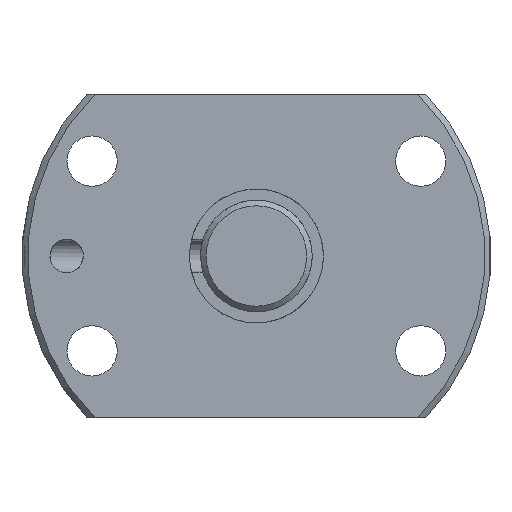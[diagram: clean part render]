
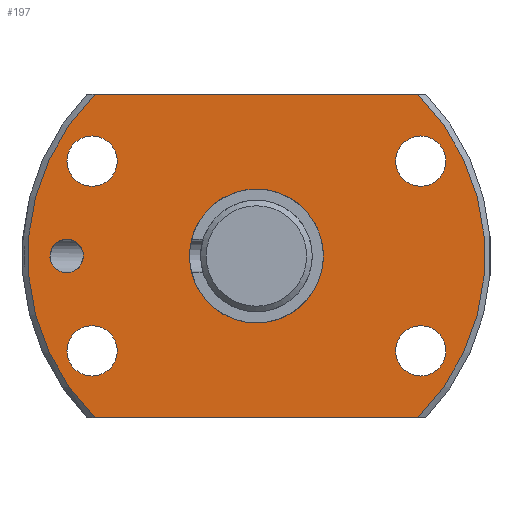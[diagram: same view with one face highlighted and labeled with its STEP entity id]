
A CAD part, left-side view. The second image highlights one B-rep face of the part: STEP entity #197.
In plain terms, the highlighted planar face has unit normal (-1, 0, 0).
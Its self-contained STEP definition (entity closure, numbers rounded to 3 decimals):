
#197 = ADVANCED_FACE( '', ( #288, #289, #290, #291, #292, #293, #294 ), #295, .T. );
#288 = FACE_BOUND( '', #412, .T. );
#289 = FACE_BOUND( '', #413, .T. );
#290 = FACE_OUTER_BOUND( '', #414, .T. );
#291 = FACE_BOUND( '', #415, .T. );
#292 = FACE_BOUND( '', #416, .T. );
#293 = FACE_BOUND( '', #417, .T. );
#294 = FACE_BOUND( '', #418, .T. );
#295 = PLANE( '', #419 );
#412 = EDGE_LOOP( '', ( #621 ) );
#413 = EDGE_LOOP( '', ( #622 ) );
#414 = EDGE_LOOP( '', ( #623, #624, #625, #626 ) );
#415 = EDGE_LOOP( '', ( #627 ) );
#416 = EDGE_LOOP( '', ( #628 ) );
#417 = EDGE_LOOP( '', ( #629 ) );
#418 = EDGE_LOOP( '', ( #630 ) );
#419 = AXIS2_PLACEMENT_3D( '', #631, #632, #633 );
#621 = ORIENTED_EDGE( '', *, *, #769, .T. );
#622 = ORIENTED_EDGE( '', *, *, #762, .T. );
#623 = ORIENTED_EDGE( '', *, *, #770, .F. );
#624 = ORIENTED_EDGE( '', *, *, #741, .F. );
#625 = ORIENTED_EDGE( '', *, *, #747, .F. );
#626 = ORIENTED_EDGE( '', *, *, #771, .F. );
#627 = ORIENTED_EDGE( '', *, *, #733, .T. );
#628 = ORIENTED_EDGE( '', *, *, #735, .T. );
#629 = ORIENTED_EDGE( '', *, *, #737, .T. );
#630 = ORIENTED_EDGE( '', *, *, #739, .T. );
#631 = CARTESIAN_POINT( '', ( 0., 20.475, 0. ) );
#632 = DIRECTION( '', ( -1., 0., 0. ) );
#633 = DIRECTION( '', ( 0., 0., 1. ) );
#733 = EDGE_CURVE( '', #814, #814, #815, .T. );
#735 = EDGE_CURVE( '', #818, #818, #819, .T. );
#737 = EDGE_CURVE( '', #822, #822, #823, .T. );
#739 = EDGE_CURVE( '', #826, #826, #827, .T. );
#741 = EDGE_CURVE( '', #828, #831, #832, .T. );
#747 = EDGE_CURVE( '', #841, #828, #843, .T. );
#762 = EDGE_CURVE( '', #869, #869, #870, .T. );
#769 = EDGE_CURVE( '', #880, #880, #881, .T. );
#770 = EDGE_CURVE( '', #831, #882, #883, .T. );
#771 = EDGE_CURVE( '', #882, #841, #884, .T. );
#814 = VERTEX_POINT( '', #984 );
#815 = CIRCLE( '', #985, 2.25 );
#818 = VERTEX_POINT( '', #988 );
#819 = CIRCLE( '', #989, 2.25 );
#822 = VERTEX_POINT( '', #992 );
#823 = CIRCLE( '', #993, 2.25 );
#826 = VERTEX_POINT( '', #996 );
#827 = CIRCLE( '', #997, 2.25 );
#828 = VERTEX_POINT( '', #998 );
#831 = VERTEX_POINT( '', #1004 );
#832 = CIRCLE( '', #1005, 20.475 );
#841 = VERTEX_POINT( '', #1021 );
#843 = LINE( '', #1026, #1027 );
#869 = VERTEX_POINT( '', #1113 );
#870 = CIRCLE( '', #1114, 1.5 );
#880 = VERTEX_POINT( '', #1129 );
#881 = CIRCLE( '', #1130, 6. );
#882 = VERTEX_POINT( '', #1131 );
#883 = LINE( '', #1132, #1133 );
#884 = CIRCLE( '', #1134, 20.475 );
#984 = CARTESIAN_POINT( '', ( 0., 14.722, -10.75 ) );
#985 = AXIS2_PLACEMENT_3D( '', #1201, #1202, #1203 );
#988 = CARTESIAN_POINT( '', ( 0., -14.722, -10.75 ) );
#989 = AXIS2_PLACEMENT_3D( '', #1207, #1208, #1209 );
#992 = CARTESIAN_POINT( '', ( 0., -14.722, 6.25 ) );
#993 = AXIS2_PLACEMENT_3D( '', #1213, #1214, #1215 );
#996 = CARTESIAN_POINT( '', ( 0., 14.722, 6.25 ) );
#997 = AXIS2_PLACEMENT_3D( '', #1219, #1220, #1221 );
#998 = CARTESIAN_POINT( '', ( 0., 14.456, -14.5 ) );
#1004 = CARTESIAN_POINT( '', ( 0., 14.456, 14.5 ) );
#1005 = AXIS2_PLACEMENT_3D( '', #1222, #1223, #1224 );
#1021 = CARTESIAN_POINT( '', ( 0., -14.456, -14.5 ) );
#1026 = CARTESIAN_POINT( '', ( 0., -21.1, -14.5 ) );
#1027 = VECTOR( '', #1229, 1000. );
#1113 = CARTESIAN_POINT( '', ( 0., 17., -1.5 ) );
#1114 = AXIS2_PLACEMENT_3D( '', #1252, #1253, #1254 );
#1129 = CARTESIAN_POINT( '', ( 0., 0., -6. ) );
#1130 = AXIS2_PLACEMENT_3D( '', #1266, #1267, #1268 );
#1131 = CARTESIAN_POINT( '', ( 0., -14.456, 14.5 ) );
#1132 = CARTESIAN_POINT( '', ( 0., 21.1, 14.5 ) );
#1133 = VECTOR( '', #1269, 1000. );
#1134 = AXIS2_PLACEMENT_3D( '', #1270, #1271, #1272 );
#1201 = CARTESIAN_POINT( '', ( 0., 14.722, -8.5 ) );
#1202 = DIRECTION( '', ( 1., 0., 0. ) );
#1203 = DIRECTION( '', ( 0., 0., -1. ) );
#1207 = CARTESIAN_POINT( '', ( 0., -14.722, -8.5 ) );
#1208 = DIRECTION( '', ( 1., 0., 0. ) );
#1209 = DIRECTION( '', ( 0., 0., -1. ) );
#1213 = CARTESIAN_POINT( '', ( 0., -14.722, 8.5 ) );
#1214 = DIRECTION( '', ( 1., 0., 0. ) );
#1215 = DIRECTION( '', ( 0., 0., -1. ) );
#1219 = CARTESIAN_POINT( '', ( 0., 14.722, 8.5 ) );
#1220 = DIRECTION( '', ( 1., 0., 0. ) );
#1221 = DIRECTION( '', ( 0., 0., -1. ) );
#1222 = CARTESIAN_POINT( '', ( 0., 0., 0. ) );
#1223 = DIRECTION( '', ( 1., 0., 0. ) );
#1224 = DIRECTION( '', ( 0., 0., -1. ) );
#1229 = DIRECTION( '', ( 0., 1., 0. ) );
#1252 = CARTESIAN_POINT( '', ( 0., 17., 0. ) );
#1253 = DIRECTION( '', ( 1., 0., 0. ) );
#1254 = DIRECTION( '', ( 0., 0., -1. ) );
#1266 = CARTESIAN_POINT( '', ( 0., 0., 0. ) );
#1267 = DIRECTION( '', ( 1., 0., 0. ) );
#1268 = DIRECTION( '', ( 0., 0., -1. ) );
#1269 = DIRECTION( '', ( 0., -1., 0. ) );
#1270 = CARTESIAN_POINT( '', ( 0., 0., 0. ) );
#1271 = DIRECTION( '', ( 1., 0., 0. ) );
#1272 = DIRECTION( '', ( 0., 0., -1. ) );
